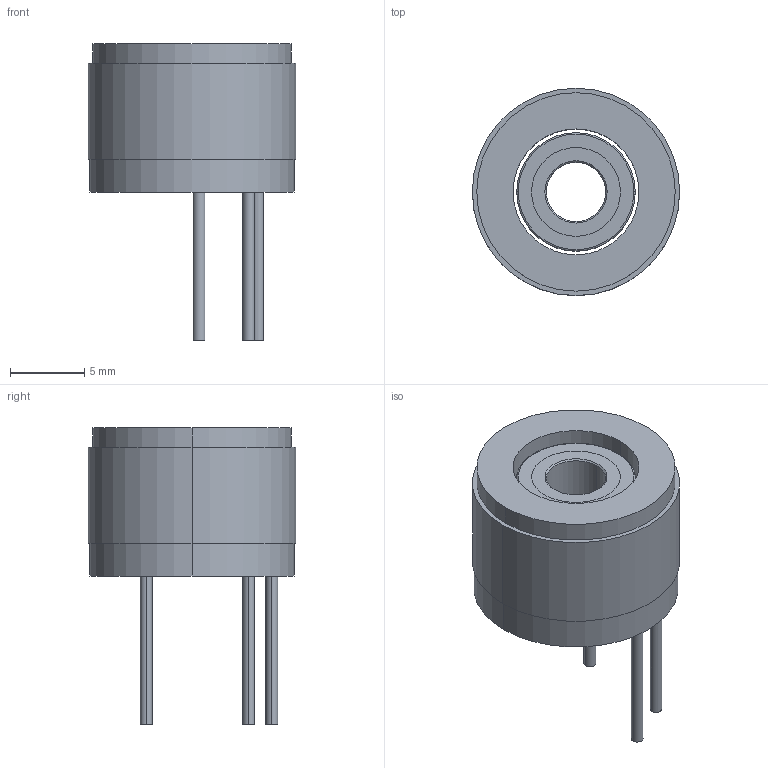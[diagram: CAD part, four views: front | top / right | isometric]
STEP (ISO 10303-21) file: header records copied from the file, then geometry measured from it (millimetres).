
FILE_DESCRIPTION (( 'STEP AP203' ), '1' );
FILE_NAME ('U1410萇儂耀倰.STEP', '2026-07-01T08:47:01', ( 'Windows User' ), ( 'P R C' ), 'SwSTEP 2.0', 'SolidWorks 2023', '' );
FILE_SCHEMA (( 'CONFIG_CONTROL_DESIGN' ));
Length unit declared in the file: millimetre
Products named in the file (1): U1410电机模型
Bounding box: 14 x 14 x 20 mm (x, y, z)
Volume: 1243.1 mm3; surface area: 1610.1 mm2
Topology: 3 solids, 3 shells, 41 faces, 82 edges, 52 vertices
Faces by surface type: cylinder 22, plane 11, torus 4, cone 4
Entity records: 1173 total; most frequent: DIRECTION 222, CARTESIAN_POINT 176, ORIENTED_EDGE 164, AXIS2_PLACEMENT_3D 98, EDGE_CURVE 82, CIRCLE 56, EDGE_LOOP 52, VERTEX_POINT 52
